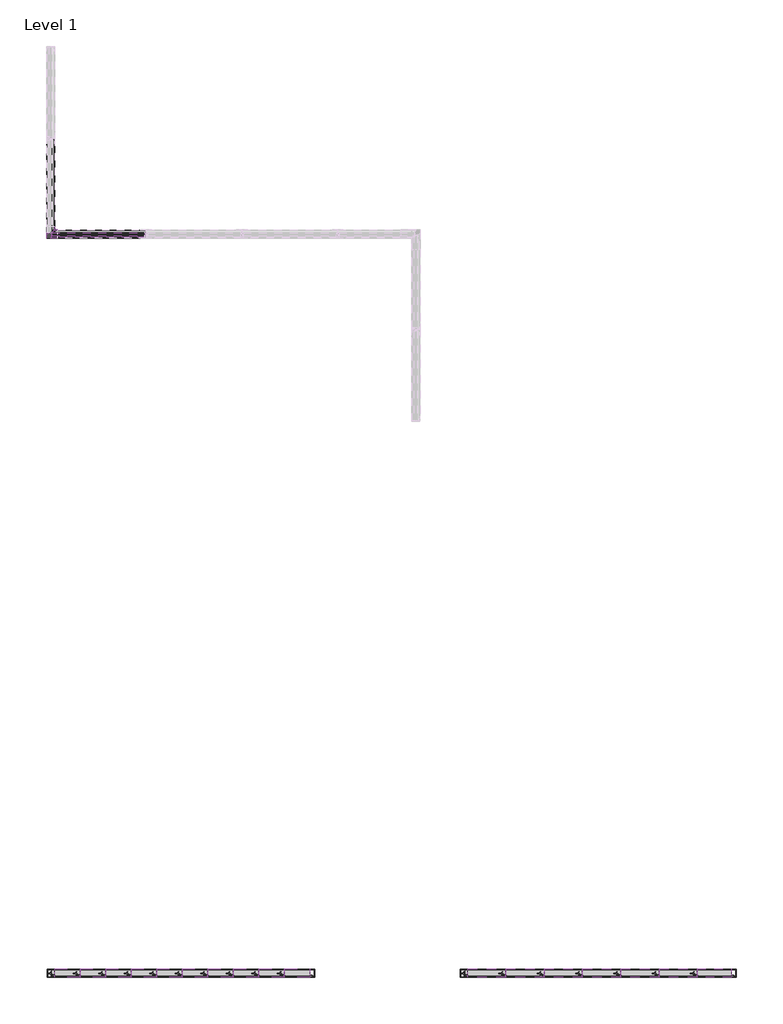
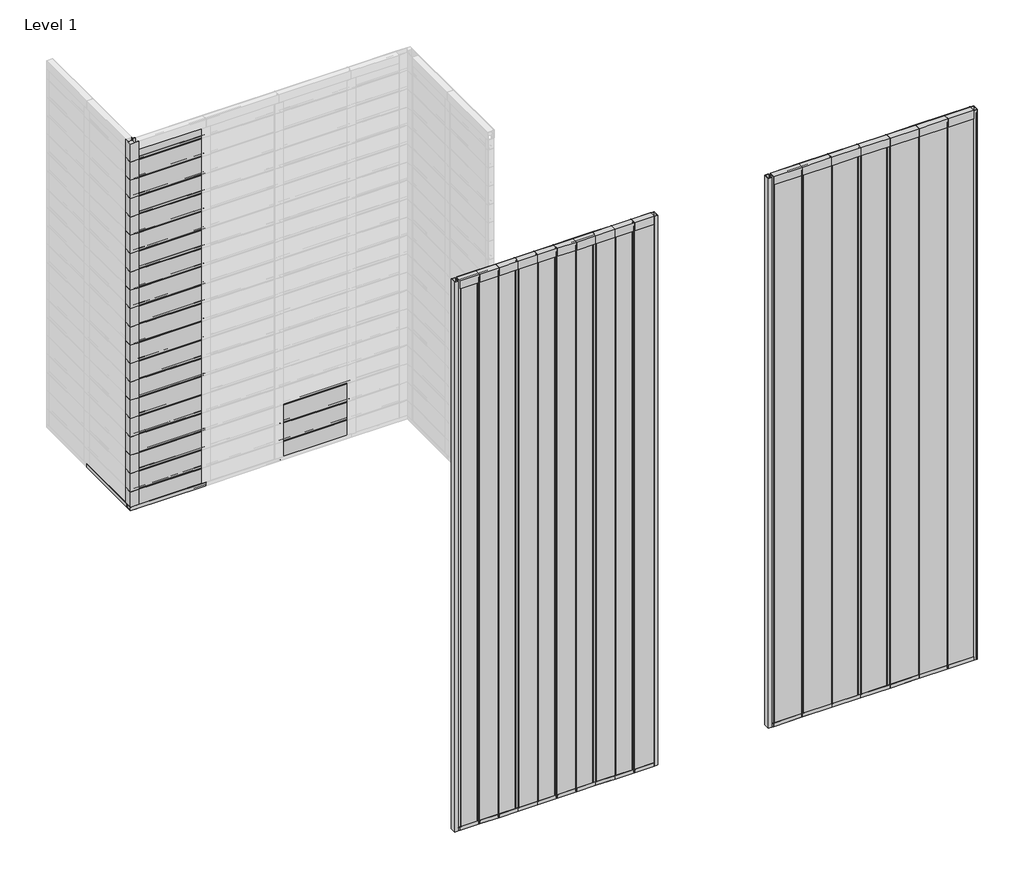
# One storey, part 1 of 6: 82 members, 40 plates.
"""IFC4 building model written with IfcOpenShell, lengths in millimetres."""

from ifc_helpers import new_model, si_unit, origin, place, context, project, spatial, transform, mapped, element, save
from components import rectangular_mullion_fastplank_2_piece_j_trim_top_ae125532, rectangular_mullion_fastplank_2_piece_j_trim_top_d668d3e7, rectangular_mullion_fastplank_2_piece_j_trim_top_9e3a3735, rectangular_mullion_fastplank_2_piece_j_trim_top_1ab4a910, rectangular_mullion_fastplank_general_j_vertical_left_2a4da334, rectangular_mullion_fastplank_outer_corner_trim_left_a135b824, rectangular_mullion_fastplank_outer_corner_trim_left_9bb45c03, rectangular_mullion_fastplank_outer_corner_trim_left_5a9d3dd4, rectangular_mullion_fastplank_outer_corner_trim_left_252256c0, rectangular_mullion_fastplank_outer_corner_trim_left_5a765686, rectangular_mullion_fastplank_outer_corner_trim_left_649a0248, rectangular_mullion_fastplank_perforated_starter_j_trim_21be3d7d, rectangular_mullion_fastplank_perforated_starter_j_trim_428297b2, rectangular_mullion_fastplank_general_j_vertical_left_750d52f3, rectangular_mullion_fastplank_perforated_starter_j_trim_7e177d29, rectangular_mullion_fastplank_general_j_vertical_left_623ef479, rectangular_mullion_fastplank_perforated_starter_j_trim_444acb71, rectangular_mullion_fastplank_perforated_starter_j_trim_7e1a0885, rectangular_mullion_fastplank_perforated_starter_j_trim_2c1f9283, plate_624bdc6f, plate_11fa783c, fastplank_v_notch_plank_vertical_124b619d, fastplank_v_notch_plank_vertical_0870f6c9, fastplank_v_notch_plank_vertical_a95fba1c, fastplank_v_notch_plank_vertical_97f11817

model = new_model("IFC4")

# Units and contexts
model_context = context("Model", 3, world=origin())
ifc_project = project(units=[si_unit("LENGTHUNIT", "METRE", prefix="MILLI")], contexts=[model_context])

# Site, building, storey
site = spatial("IfcSite", under=ifc_project)
building = spatial("IfcBuilding", under=site)
storey = spatial("IfcBuildingStorey", under=building, Name="Level 1", Elevation=0.0)

# Members
placement = place(None, origin())
rectangular_mullion_fastplank_2_piece_j_trim_top_shape = rectangular_mullion_fastplank_2_piece_j_trim_top_ae125532(model_context)
element("IfcMember", 1, ObjectType="Rectangular Mullion : FastPlank_2-Piece-J-Trim-Top", at=placement, inside=storey, context=model_context, shape_type="MappedRepresentation", body=[
    mapped(rectangular_mullion_fastplank_2_piece_j_trim_top_shape, transform((-1175.4200328, -996.4007404, 3048.0), x_axis=(0.0, 0.0, 1.0), y_axis=(0.0, 1.0, 0.0), z_axis=(-1.0, 0.0, 0.0))),
])
element("IfcMember", 2, ObjectType="Rectangular Mullion : FastPlank_2-Piece-J-Trim-Top", at=placement, inside=storey, context=model_context, shape_type="MappedRepresentation", body=[
    mapped(rectangular_mullion_fastplank_2_piece_j_trim_top_shape, transform((-1277.0200328, -996.4007404, 3048.0), x_axis=(0.0, 0.0, 1.0), y_axis=(0.0, 1.0, 0.0), z_axis=(-1.0, 0.0, 0.0))),
])
element("IfcMember", 3, ObjectType="Rectangular Mullion : FastPlank_2-Piece-J-Trim-Top", at=placement, inside=storey, context=model_context, shape_type="MappedRepresentation", body=[
    mapped(rectangular_mullion_fastplank_2_piece_j_trim_top_shape, transform((-1378.6200328, -996.4007404, 3048.0), x_axis=(0.0, 0.0, 1.0), y_axis=(0.0, 1.0, 0.0), z_axis=(-1.0, 0.0, 0.0))),
])
element("IfcMember", 4, ObjectType="Rectangular Mullion : FastPlank_2-Piece-J-Trim-Top", at=placement, inside=storey, context=model_context, shape_type="MappedRepresentation", body=[
    mapped(rectangular_mullion_fastplank_2_piece_j_trim_top_shape, transform((-1480.2200328, -996.4007404, 3048.0), x_axis=(0.0, 0.0, 1.0), y_axis=(0.0, 1.0, 0.0), z_axis=(-1.0, 0.0, 0.0))),
])
element("IfcMember", 5, ObjectType="Rectangular Mullion : FastPlank_2-Piece-J-Trim-Top", at=placement, inside=storey, context=model_context, shape_type="MappedRepresentation", body=[
    mapped(rectangular_mullion_fastplank_2_piece_j_trim_top_shape, transform((-1581.8200328, -996.4007404, 3048.0), x_axis=(0.0, 0.0, 1.0), y_axis=(0.0, 1.0, 0.0), z_axis=(-1.0, 0.0, 0.0))),
])
element("IfcMember", 6, ObjectType="Rectangular Mullion : FastPlank_2-Piece-J-Trim-Top", at=placement, inside=storey, context=model_context, shape_type="MappedRepresentation", body=[
    mapped(rectangular_mullion_fastplank_2_piece_j_trim_top_shape, transform((-1683.4200328, -996.4007404, 3048.0), x_axis=(0.0, 0.0, 1.0), y_axis=(0.0, 1.0, 0.0), z_axis=(-1.0, 0.0, 0.0))),
])
element("IfcMember", 7, ObjectType="Rectangular Mullion : FastPlank_2-Piece-J-Trim-Top", at=placement, inside=storey, context=model_context, shape_type="MappedRepresentation", body=[
    mapped(rectangular_mullion_fastplank_2_piece_j_trim_top_shape, transform((-1785.0200328, -996.4007404, 3048.0), x_axis=(0.0, 0.0, 1.0), y_axis=(0.0, 1.0, 0.0), z_axis=(-1.0, 0.0, 0.0))),
])
element("IfcMember", 8, ObjectType="Rectangular Mullion : FastPlank_2-Piece-J-Trim-Top", at=placement, inside=storey, context=model_context, shape_type="MappedRepresentation", body=[
    mapped(rectangular_mullion_fastplank_2_piece_j_trim_top_shape, transform((-1886.6200328, -996.4007404, 3048.0), x_axis=(0.0, 0.0, 1.0), y_axis=(0.0, 1.0, 0.0), z_axis=(-1.0, 0.0, 0.0))),
])
element("IfcMember", 9, ObjectType="Rectangular Mullion : FastPlank_2-Piece-J-Trim-Top", at=placement, inside=storey, context=model_context, shape_type="MappedRepresentation", body=[
    mapped(rectangular_mullion_fastplank_2_piece_j_trim_top_shape, transform((-1988.2200328, -996.4007404, 3048.0), x_axis=(0.0, 0.0, 1.0), y_axis=(0.0, 1.0, 0.0), z_axis=(-1.0, 0.0, 0.0))),
])
rectangular_mullion_fastplank_2_piece_j_trim_top_2_shape = rectangular_mullion_fastplank_2_piece_j_trim_top_d668d3e7(model_context)
element("IfcMember", 10, ObjectType="Rectangular Mullion : FastPlank_2-Piece-J-Trim-Top", at=placement, inside=storey, context=model_context, shape_type="MappedRepresentation", body=[
    mapped(rectangular_mullion_fastplank_2_piece_j_trim_top_2_shape, transform((-1073.8200328, -996.4007404, 3048.0), x_axis=(0.0, 0.0, 1.0), y_axis=(0.0, 1.0, 0.0), z_axis=(-1.0, 0.0, 0.0))),
])
rectangular_mullion_fastplank_2_piece_j_trim_top_3_shape = rectangular_mullion_fastplank_2_piece_j_trim_top_9e3a3735(model_context)
element("IfcMember", 11, ObjectType="Rectangular Mullion : FastPlank_2-Piece-J-Trim-Top", at=placement, inside=storey, context=model_context, shape_type="MappedRepresentation", body=[
    mapped(rectangular_mullion_fastplank_2_piece_j_trim_top_3_shape, transform((417.1299483, -996.4007404, 3048.0), x_axis=(0.0, 0.0, 1.0), y_axis=(0.0, 1.0, 0.0), z_axis=(-1.0, 0.0, 0.0))),
])
element("IfcMember", 12, ObjectType="Rectangular Mullion : FastPlank_2-Piece-J-Trim-Top", at=placement, inside=storey, context=model_context, shape_type="MappedRepresentation", body=[
    mapped(rectangular_mullion_fastplank_2_piece_j_trim_top_3_shape, transform((264.7299483, -996.4007404, 3048.0), x_axis=(0.0, 0.0, 1.0), y_axis=(0.0, 1.0, 0.0), z_axis=(-1.0, 0.0, 0.0))),
])
element("IfcMember", 13, ObjectType="Rectangular Mullion : FastPlank_2-Piece-J-Trim-Top", at=placement, inside=storey, context=model_context, shape_type="MappedRepresentation", body=[
    mapped(rectangular_mullion_fastplank_2_piece_j_trim_top_3_shape, transform((112.3299483, -996.4007404, 3048.0), x_axis=(0.0, 0.0, 1.0), y_axis=(0.0, 1.0, 0.0), z_axis=(-1.0, 0.0, 0.0))),
])
element("IfcMember", 14, ObjectType="Rectangular Mullion : FastPlank_2-Piece-J-Trim-Top", at=placement, inside=storey, context=model_context, shape_type="MappedRepresentation", body=[
    mapped(rectangular_mullion_fastplank_2_piece_j_trim_top_3_shape, transform((-40.0700517, -996.4007404, 3048.0), x_axis=(0.0, 0.0, 1.0), y_axis=(0.0, 1.0, 0.0), z_axis=(-1.0, 0.0, 0.0))),
])
element("IfcMember", 15, ObjectType="Rectangular Mullion : FastPlank_2-Piece-J-Trim-Top", at=placement, inside=storey, context=model_context, shape_type="MappedRepresentation", body=[
    mapped(rectangular_mullion_fastplank_2_piece_j_trim_top_3_shape, transform((-192.4700517, -996.4007404, 3048.0), x_axis=(0.0, 0.0, 1.0), y_axis=(0.0, 1.0, 0.0), z_axis=(-1.0, 0.0, 0.0))),
])
rectangular_mullion_fastplank_2_piece_j_trim_top_4_shape = rectangular_mullion_fastplank_2_piece_j_trim_top_1ab4a910(model_context)
element("IfcMember", 16, ObjectType="Rectangular Mullion : FastPlank_2-Piece-J-Trim-Top", at=placement, inside=storey, context=model_context, shape_type="MappedRepresentation", body=[
    mapped(rectangular_mullion_fastplank_2_piece_j_trim_top_4_shape, transform((569.5299483, -996.4007404, 3048.0), x_axis=(0.0, 0.0, 1.0), y_axis=(0.0, 1.0, 0.0), z_axis=(-1.0, 0.0, 0.0))),
])
element("IfcMember", 17, ObjectType="Rectangular Mullion : FastPlank_2-Piece-J-Trim-Top", at=placement, inside=storey, context=model_context, shape_type="MappedRepresentation", body=[
    mapped(rectangular_mullion_fastplank_2_piece_j_trim_top_3_shape, transform((-344.8700517, -996.4007404, 3048.0), x_axis=(0.0, 0.0, 1.0), y_axis=(0.0, 1.0, 0.0), z_axis=(-1.0, 0.0, 0.0))),
])
rectangular_mullion_fastplank_general_j_vertical_left_shape = rectangular_mullion_fastplank_general_j_vertical_left_2a4da334(model_context)
element("IfcMember", 18, ObjectType="Rectangular Mullion : FastPlank_General-J-Vertical-Left", at=placement, inside=storey, context=model_context, shape_type="MappedRepresentation", body=[
    mapped(rectangular_mullion_fastplank_general_j_vertical_left_shape, transform((-2017.3382092, -996.4007404, 0.0), x_axis=(-1.0, 0.0, 0.0), y_axis=(0.0, 1.0, 0.0), z_axis=(0.0, 0.0, -1.0))),
])
element("IfcMember", 19, ObjectType="Rectangular Mullion : FastPlank_General-J-Vertical-Left", at=placement, inside=storey, context=model_context, shape_type="MappedRepresentation", body=[
    mapped(rectangular_mullion_fastplank_general_j_vertical_left_shape, transform((-373.7556235, -996.4007404, 0.0), x_axis=(-1.0, 0.0, 0.0), y_axis=(0.0, 1.0, 0.0), z_axis=(0.0, 0.0, -1.0))),
])
element("IfcMember", 20, ObjectType="Rectangular Mullion : FastPlank_General-J-Vertical-Right", at=placement, inside=storey, context=model_context, shape_type="MappedRepresentation", body=[
    mapped(rectangular_mullion_fastplank_general_j_vertical_left_shape, transform((-953.1700325, -996.4007404, 3048.0), x_axis=(1.0, 0.0, 0.0), y_axis=(0.0, 1.0, 0.0), z_axis=(0.0, 0.0, 1.0))),
])
element("IfcMember", 21, ObjectType="Rectangular Mullion : FastPlank_General-J-Vertical-Right", at=placement, inside=storey, context=model_context, shape_type="MappedRepresentation", body=[
    mapped(rectangular_mullion_fastplank_general_j_vertical_left_shape, transform((723.2299675, -996.4007404, 3048.0), x_axis=(1.0, 0.0, 0.0), y_axis=(0.0, 1.0, 0.0), z_axis=(0.0, 0.0, 1.0))),
])
rectangular_mullion_fastplank_outer_corner_trim_left_shape = rectangular_mullion_fastplank_outer_corner_trim_left_a135b824(model_context)
element("IfcMember", 22, ObjectType="Rectangular Mullion : FastPlank_Outer-Corner-Trim-Left", at=placement, inside=storey, context=model_context, shape_type="MappedRepresentation", body=[
    mapped(rectangular_mullion_fastplank_outer_corner_trim_left_shape, transform((-2019.9700325, 1944.9134647, 204.5000189), x_axis=(-1.0, 0.0, 0.0), y_axis=(0.0, -1.0, 0.0), z_axis=(0.0, 0.0, 1.0))),
])
element("IfcMember", 23, ObjectType="Rectangular Mullion : FastPlank_Outer-Corner-Trim-Left", at=placement, inside=storey, context=model_context, shape_type="MappedRepresentation", body=[
    mapped(rectangular_mullion_fastplank_outer_corner_trim_left_shape, transform((-2019.9700325, 1944.9134647, 306.1000189), x_axis=(-1.0, 0.0, 0.0), y_axis=(0.0, -1.0, 0.0), z_axis=(0.0, 0.0, 1.0))),
])
element("IfcMember", 24, ObjectType="Rectangular Mullion : FastPlank_Outer-Corner-Trim-Left", at=placement, inside=storey, context=model_context, shape_type="MappedRepresentation", body=[
    mapped(rectangular_mullion_fastplank_outer_corner_trim_left_shape, transform((-2019.9700325, 1944.9134647, 407.7000189), x_axis=(-1.0, 0.0, 0.0), y_axis=(0.0, -1.0, 0.0), z_axis=(0.0, 0.0, 1.0))),
])
element("IfcMember", 25, ObjectType="Rectangular Mullion : FastPlank_Outer-Corner-Trim-Left", at=placement, inside=storey, context=model_context, shape_type="MappedRepresentation", body=[
    mapped(rectangular_mullion_fastplank_outer_corner_trim_left_shape, transform((-2019.9700325, 1944.9134647, 509.3000189), x_axis=(-1.0, 0.0, 0.0), y_axis=(0.0, -1.0, 0.0), z_axis=(0.0, 0.0, 1.0))),
])
element("IfcMember", 26, ObjectType="Rectangular Mullion : FastPlank_Outer-Corner-Trim-Left", at=placement, inside=storey, context=model_context, shape_type="MappedRepresentation", body=[
    mapped(rectangular_mullion_fastplank_outer_corner_trim_left_shape, transform((-2019.9700325, 1944.9134647, 610.9000189), x_axis=(-1.0, 0.0, 0.0), y_axis=(0.0, -1.0, 0.0), z_axis=(0.0, 0.0, 1.0))),
])
element("IfcMember", 27, ObjectType="Rectangular Mullion : FastPlank_Outer-Corner-Trim-Left", at=placement, inside=storey, context=model_context, shape_type="MappedRepresentation", body=[
    mapped(rectangular_mullion_fastplank_outer_corner_trim_left_shape, transform((-2019.9700325, 1944.9134647, 712.5000189), x_axis=(-1.0, 0.0, 0.0), y_axis=(0.0, -1.0, 0.0), z_axis=(0.0, 0.0, 1.0))),
])
element("IfcMember", 28, ObjectType="Rectangular Mullion : FastPlank_Outer-Corner-Trim-Left", at=placement, inside=storey, context=model_context, shape_type="MappedRepresentation", body=[
    mapped(rectangular_mullion_fastplank_outer_corner_trim_left_shape, transform((-2019.9700325, 1944.9134647, 814.1000189), x_axis=(-1.0, 0.0, 0.0), y_axis=(0.0, -1.0, 0.0), z_axis=(0.0, 0.0, 1.0))),
])
element("IfcMember", 29, ObjectType="Rectangular Mullion : FastPlank_Outer-Corner-Trim-Left", at=placement, inside=storey, context=model_context, shape_type="MappedRepresentation", body=[
    mapped(rectangular_mullion_fastplank_outer_corner_trim_left_shape, transform((-2019.9700325, 1944.9134647, 915.7000189), x_axis=(-1.0, 0.0, 0.0), y_axis=(0.0, -1.0, 0.0), z_axis=(0.0, 0.0, 1.0))),
])
element("IfcMember", 30, ObjectType="Rectangular Mullion : FastPlank_Outer-Corner-Trim-Left", at=placement, inside=storey, context=model_context, shape_type="MappedRepresentation", body=[
    mapped(rectangular_mullion_fastplank_outer_corner_trim_left_shape, transform((-2019.9700325, 1944.9134647, 1017.3000189), x_axis=(-1.0, 0.0, 0.0), y_axis=(0.0, -1.0, 0.0), z_axis=(0.0, 0.0, 1.0))),
])
element("IfcMember", 31, ObjectType="Rectangular Mullion : FastPlank_Outer-Corner-Trim-Left", at=placement, inside=storey, context=model_context, shape_type="MappedRepresentation", body=[
    mapped(rectangular_mullion_fastplank_outer_corner_trim_left_shape, transform((-2019.9700325, 1944.9134647, 1118.9000189), x_axis=(-1.0, 0.0, 0.0), y_axis=(0.0, -1.0, 0.0), z_axis=(0.0, 0.0, 1.0))),
])
element("IfcMember", 32, ObjectType="Rectangular Mullion : FastPlank_Outer-Corner-Trim-Left", at=placement, inside=storey, context=model_context, shape_type="MappedRepresentation", body=[
    mapped(rectangular_mullion_fastplank_outer_corner_trim_left_shape, transform((-2019.9700325, 1944.9134647, 1220.5000189), x_axis=(-1.0, 0.0, 0.0), y_axis=(0.0, -1.0, 0.0), z_axis=(0.0, 0.0, 1.0))),
])
element("IfcMember", 33, ObjectType="Rectangular Mullion : FastPlank_Outer-Corner-Trim-Left", at=placement, inside=storey, context=model_context, shape_type="MappedRepresentation", body=[
    mapped(rectangular_mullion_fastplank_outer_corner_trim_left_shape, transform((-2019.9700325, 1944.9134647, 1322.1000189), x_axis=(-1.0, 0.0, 0.0), y_axis=(0.0, -1.0, 0.0), z_axis=(0.0, 0.0, 1.0))),
])
element("IfcMember", 34, ObjectType="Rectangular Mullion : FastPlank_Outer-Corner-Trim-Left", at=placement, inside=storey, context=model_context, shape_type="MappedRepresentation", body=[
    mapped(rectangular_mullion_fastplank_outer_corner_trim_left_shape, transform((-2019.9700325, 1944.9134647, 1423.7000189), x_axis=(-1.0, 0.0, 0.0), y_axis=(0.0, -1.0, 0.0), z_axis=(0.0, 0.0, 1.0))),
])
element("IfcMember", 35, ObjectType="Rectangular Mullion : FastPlank_Outer-Corner-Trim-Left", at=placement, inside=storey, context=model_context, shape_type="MappedRepresentation", body=[
    mapped(rectangular_mullion_fastplank_outer_corner_trim_left_shape, transform((-2019.9700325, 1944.9134647, 1525.3000189), x_axis=(-1.0, 0.0, 0.0), y_axis=(0.0, -1.0, 0.0), z_axis=(0.0, 0.0, 1.0))),
])
element("IfcMember", 36, ObjectType="Rectangular Mullion : FastPlank_Outer-Corner-Trim-Left", at=placement, inside=storey, context=model_context, shape_type="MappedRepresentation", body=[
    mapped(rectangular_mullion_fastplank_outer_corner_trim_left_shape, transform((-2019.9700325, 1944.9134647, 1626.9000189), x_axis=(-1.0, 0.0, 0.0), y_axis=(0.0, -1.0, 0.0), z_axis=(0.0, 0.0, 1.0))),
])
element("IfcMember", 37, ObjectType="Rectangular Mullion : FastPlank_Outer-Corner-Trim-Left", at=placement, inside=storey, context=model_context, shape_type="MappedRepresentation", body=[
    mapped(rectangular_mullion_fastplank_outer_corner_trim_left_shape, transform((-2019.9700325, 1944.9134647, 1728.5000189), x_axis=(-1.0, 0.0, 0.0), y_axis=(0.0, -1.0, 0.0), z_axis=(0.0, 0.0, 1.0))),
])
element("IfcMember", 38, ObjectType="Rectangular Mullion : FastPlank_Outer-Corner-Trim-Left", at=placement, inside=storey, context=model_context, shape_type="MappedRepresentation", body=[
    mapped(rectangular_mullion_fastplank_outer_corner_trim_left_shape, transform((-2019.9700325, 1944.9134647, 1830.1000189), x_axis=(-1.0, 0.0, 0.0), y_axis=(0.0, -1.0, 0.0), z_axis=(0.0, 0.0, 1.0))),
])
element("IfcMember", 39, ObjectType="Rectangular Mullion : FastPlank_Outer-Corner-Trim-Left", at=placement, inside=storey, context=model_context, shape_type="MappedRepresentation", body=[
    mapped(rectangular_mullion_fastplank_outer_corner_trim_left_shape, transform((-2019.9700325, 1944.9134647, 1931.7000189), x_axis=(-1.0, 0.0, 0.0), y_axis=(0.0, -1.0, 0.0), z_axis=(0.0, 0.0, 1.0))),
])
rectangular_mullion_fastplank_outer_corner_trim_left_2_shape = rectangular_mullion_fastplank_outer_corner_trim_left_9bb45c03(model_context)
element("IfcMember", 40, ObjectType="Rectangular Mullion : FastPlank_Outer-Corner-Trim-Left", at=placement, inside=storey, context=model_context, shape_type="MappedRepresentation", body=[
    mapped(rectangular_mullion_fastplank_outer_corner_trim_left_2_shape, transform((-1998.3218907, 1923.265323, 204.5000189), x_axis=(0.0, -1.0, 0.0), y_axis=(1.0, 0.0, 0.0), z_axis=(0.0, 0.0, 1.0))),
])
element("IfcMember", 41, ObjectType="Rectangular Mullion : FastPlank_Outer-Corner-Trim-Left", at=placement, inside=storey, context=model_context, shape_type="MappedRepresentation", body=[
    mapped(rectangular_mullion_fastplank_outer_corner_trim_left_2_shape, transform((-1998.3218907, 1923.265323, 306.1000189), x_axis=(0.0, -1.0, 0.0), y_axis=(1.0, 0.0, 0.0), z_axis=(0.0, 0.0, 1.0))),
])
element("IfcMember", 42, ObjectType="Rectangular Mullion : FastPlank_Outer-Corner-Trim-Left", at=placement, inside=storey, context=model_context, shape_type="MappedRepresentation", body=[
    mapped(rectangular_mullion_fastplank_outer_corner_trim_left_2_shape, transform((-1998.3218907, 1923.265323, 407.7000189), x_axis=(0.0, -1.0, 0.0), y_axis=(1.0, 0.0, 0.0), z_axis=(0.0, 0.0, 1.0))),
])
element("IfcMember", 43, ObjectType="Rectangular Mullion : FastPlank_Outer-Corner-Trim-Left", at=placement, inside=storey, context=model_context, shape_type="MappedRepresentation", body=[
    mapped(rectangular_mullion_fastplank_outer_corner_trim_left_2_shape, transform((-1998.3218907, 1923.265323, 509.3000189), x_axis=(0.0, -1.0, 0.0), y_axis=(1.0, 0.0, 0.0), z_axis=(0.0, 0.0, 1.0))),
])
element("IfcMember", 44, ObjectType="Rectangular Mullion : FastPlank_Outer-Corner-Trim-Left", at=placement, inside=storey, context=model_context, shape_type="MappedRepresentation", body=[
    mapped(rectangular_mullion_fastplank_outer_corner_trim_left_2_shape, transform((-1998.3218907, 1923.265323, 610.9000189), x_axis=(0.0, -1.0, 0.0), y_axis=(1.0, 0.0, 0.0), z_axis=(0.0, 0.0, 1.0))),
])
element("IfcMember", 45, ObjectType="Rectangular Mullion : FastPlank_Outer-Corner-Trim-Left", at=placement, inside=storey, context=model_context, shape_type="MappedRepresentation", body=[
    mapped(rectangular_mullion_fastplank_outer_corner_trim_left_2_shape, transform((-1998.3218907, 1923.265323, 712.5000189), x_axis=(0.0, -1.0, 0.0), y_axis=(1.0, 0.0, 0.0), z_axis=(0.0, 0.0, 1.0))),
])
element("IfcMember", 46, ObjectType="Rectangular Mullion : FastPlank_Outer-Corner-Trim-Left", at=placement, inside=storey, context=model_context, shape_type="MappedRepresentation", body=[
    mapped(rectangular_mullion_fastplank_outer_corner_trim_left_2_shape, transform((-1998.3218907, 1923.265323, 814.1000189), x_axis=(0.0, -1.0, 0.0), y_axis=(1.0, 0.0, 0.0), z_axis=(0.0, 0.0, 1.0))),
])
element("IfcMember", 47, ObjectType="Rectangular Mullion : FastPlank_Outer-Corner-Trim-Left", at=placement, inside=storey, context=model_context, shape_type="MappedRepresentation", body=[
    mapped(rectangular_mullion_fastplank_outer_corner_trim_left_2_shape, transform((-1998.3218907, 1923.265323, 915.7000189), x_axis=(0.0, -1.0, 0.0), y_axis=(1.0, 0.0, 0.0), z_axis=(0.0, 0.0, 1.0))),
])
element("IfcMember", 48, ObjectType="Rectangular Mullion : FastPlank_Outer-Corner-Trim-Left", at=placement, inside=storey, context=model_context, shape_type="MappedRepresentation", body=[
    mapped(rectangular_mullion_fastplank_outer_corner_trim_left_2_shape, transform((-1998.3218907, 1923.265323, 1017.3000189), x_axis=(0.0, -1.0, 0.0), y_axis=(1.0, 0.0, 0.0), z_axis=(0.0, 0.0, 1.0))),
])
element("IfcMember", 49, ObjectType="Rectangular Mullion : FastPlank_Outer-Corner-Trim-Left", at=placement, inside=storey, context=model_context, shape_type="MappedRepresentation", body=[
    mapped(rectangular_mullion_fastplank_outer_corner_trim_left_2_shape, transform((-1998.3218907, 1923.265323, 1118.9000189), x_axis=(0.0, -1.0, 0.0), y_axis=(1.0, 0.0, 0.0), z_axis=(0.0, 0.0, 1.0))),
])
element("IfcMember", 50, ObjectType="Rectangular Mullion : FastPlank_Outer-Corner-Trim-Left", at=placement, inside=storey, context=model_context, shape_type="MappedRepresentation", body=[
    mapped(rectangular_mullion_fastplank_outer_corner_trim_left_2_shape, transform((-1998.3218907, 1923.265323, 1220.5000189), x_axis=(0.0, -1.0, 0.0), y_axis=(1.0, 0.0, 0.0), z_axis=(0.0, 0.0, 1.0))),
])
element("IfcMember", 51, ObjectType="Rectangular Mullion : FastPlank_Outer-Corner-Trim-Left", at=placement, inside=storey, context=model_context, shape_type="MappedRepresentation", body=[
    mapped(rectangular_mullion_fastplank_outer_corner_trim_left_2_shape, transform((-1998.3218907, 1923.265323, 1322.1000189), x_axis=(0.0, -1.0, 0.0), y_axis=(1.0, 0.0, 0.0), z_axis=(0.0, 0.0, 1.0))),
])
element("IfcMember", 52, ObjectType="Rectangular Mullion : FastPlank_Outer-Corner-Trim-Left", at=placement, inside=storey, context=model_context, shape_type="MappedRepresentation", body=[
    mapped(rectangular_mullion_fastplank_outer_corner_trim_left_2_shape, transform((-1998.3218907, 1923.265323, 1423.7000189), x_axis=(0.0, -1.0, 0.0), y_axis=(1.0, 0.0, 0.0), z_axis=(0.0, 0.0, 1.0))),
])
element("IfcMember", 53, ObjectType="Rectangular Mullion : FastPlank_Outer-Corner-Trim-Left", at=placement, inside=storey, context=model_context, shape_type="MappedRepresentation", body=[
    mapped(rectangular_mullion_fastplank_outer_corner_trim_left_2_shape, transform((-1998.3218907, 1923.265323, 1525.3000189), x_axis=(0.0, -1.0, 0.0), y_axis=(1.0, 0.0, 0.0), z_axis=(0.0, 0.0, 1.0))),
])
element("IfcMember", 54, ObjectType="Rectangular Mullion : FastPlank_Outer-Corner-Trim-Left", at=placement, inside=storey, context=model_context, shape_type="MappedRepresentation", body=[
    mapped(rectangular_mullion_fastplank_outer_corner_trim_left_2_shape, transform((-1998.3218907, 1923.265323, 1626.9000189), x_axis=(0.0, -1.0, 0.0), y_axis=(1.0, 0.0, 0.0), z_axis=(0.0, 0.0, 1.0))),
])
element("IfcMember", 55, ObjectType="Rectangular Mullion : FastPlank_Outer-Corner-Trim-Left", at=placement, inside=storey, context=model_context, shape_type="MappedRepresentation", body=[
    mapped(rectangular_mullion_fastplank_outer_corner_trim_left_2_shape, transform((-1998.3218907, 1923.265323, 1728.5000189), x_axis=(0.0, -1.0, 0.0), y_axis=(1.0, 0.0, 0.0), z_axis=(0.0, 0.0, 1.0))),
])
element("IfcMember", 56, ObjectType="Rectangular Mullion : FastPlank_Outer-Corner-Trim-Left", at=placement, inside=storey, context=model_context, shape_type="MappedRepresentation", body=[
    mapped(rectangular_mullion_fastplank_outer_corner_trim_left_2_shape, transform((-1998.3218907, 1923.265323, 1830.1000189), x_axis=(0.0, -1.0, 0.0), y_axis=(1.0, 0.0, 0.0), z_axis=(0.0, 0.0, 1.0))),
])
element("IfcMember", 57, ObjectType="Rectangular Mullion : FastPlank_Outer-Corner-Trim-Left", at=placement, inside=storey, context=model_context, shape_type="MappedRepresentation", body=[
    mapped(rectangular_mullion_fastplank_outer_corner_trim_left_2_shape, transform((-1998.3218907, 1923.265323, 1931.7000189), x_axis=(0.0, -1.0, 0.0), y_axis=(1.0, 0.0, 0.0), z_axis=(0.0, 0.0, 1.0))),
])
rectangular_mullion_fastplank_outer_corner_trim_left_3_shape = rectangular_mullion_fastplank_outer_corner_trim_left_5a9d3dd4(model_context)
element("IfcMember", 58, ObjectType="Rectangular Mullion : FastPlank_Outer-Corner-Trim-Left", at=placement, inside=storey, context=model_context, shape_type="MappedRepresentation", body=[
    mapped(rectangular_mullion_fastplank_outer_corner_trim_left_3_shape, transform((-1998.3218907, 1923.265323, 2032.0), x_axis=(0.0, -1.0, 0.0), y_axis=(1.0, 0.0, 0.0), z_axis=(0.0, 0.0, 1.0))),
])
rectangular_mullion_fastplank_outer_corner_trim_left_4_shape = rectangular_mullion_fastplank_outer_corner_trim_left_252256c0(model_context)
element("IfcMember", 59, ObjectType="Rectangular Mullion : FastPlank_Outer-Corner-Trim-Left", at=placement, inside=storey, context=model_context, shape_type="MappedRepresentation", body=[
    mapped(rectangular_mullion_fastplank_outer_corner_trim_left_4_shape, transform((-2019.9700325, 1944.9134647, 2032.0), x_axis=(-1.0, 0.0, 0.0), y_axis=(0.0, -1.0, 0.0), z_axis=(0.0, 0.0, 1.0))),
])
rectangular_mullion_fastplank_outer_corner_trim_left_5_shape = rectangular_mullion_fastplank_outer_corner_trim_left_5a765686(model_context)
element("IfcMember", 60, ObjectType="Rectangular Mullion : FastPlank_Outer-Corner-Trim-Left", at=placement, inside=storey, context=model_context, shape_type="MappedRepresentation", body=[
    mapped(rectangular_mullion_fastplank_outer_corner_trim_left_5_shape, transform((-2019.9700325, 1944.9134647, 102.9000189), x_axis=(-1.0, 0.0, 0.0), y_axis=(0.0, -1.0, 0.0), z_axis=(0.0, 0.0, 1.0))),
])
rectangular_mullion_fastplank_outer_corner_trim_left_6_shape = rectangular_mullion_fastplank_outer_corner_trim_left_649a0248(model_context)
element("IfcMember", 61, ObjectType="Rectangular Mullion : FastPlank_Outer-Corner-Trim-Left", at=placement, inside=storey, context=model_context, shape_type="MappedRepresentation", body=[
    mapped(rectangular_mullion_fastplank_outer_corner_trim_left_6_shape, transform((-1998.3218907, 1923.265323, 102.9000189), x_axis=(0.0, -1.0, 0.0), y_axis=(1.0, 0.0, 0.0), z_axis=(0.0, 0.0, 1.0))),
])
rectangular_mullion_fastplank_perforated_starter_j_trim_shape = rectangular_mullion_fastplank_perforated_starter_j_trim_21be3d7d(model_context)
element("IfcMember", 62, ObjectType="Rectangular Mullion : FastPlank_Perforated-Starter-J-Trim", at=placement, inside=storey, context=model_context, shape_type="MappedRepresentation", body=[
    mapped(rectangular_mullion_fastplank_perforated_starter_j_trim_shape, transform((-2019.9700325, 1944.9134647, 0.0), x_axis=(0.0, 0.0, -1.0), y_axis=(0.0, -1.0, 0.0), z_axis=(-1.0, 0.0, 0.0))),
])
rectangular_mullion_fastplank_perforated_starter_j_trim_2_shape = rectangular_mullion_fastplank_perforated_starter_j_trim_428297b2(model_context)
element("IfcMember", 63, ObjectType="Rectangular Mullion : FastPlank_Perforated-Starter-J-Trim", at=placement, inside=storey, context=model_context, shape_type="MappedRepresentation", body=[
    mapped(rectangular_mullion_fastplank_perforated_starter_j_trim_2_shape, transform((-1998.3218907, 1923.265323, 0.0), x_axis=(0.0, 0.0, -1.0), y_axis=(1.0, 0.0, 0.0), z_axis=(0.0, -1.0, 0.0))),
])
rectangular_mullion_fastplank_general_j_vertical_left_2_shape = rectangular_mullion_fastplank_general_j_vertical_left_750d52f3(model_context)
element("IfcMember", 64, ObjectType="Rectangular Mullion : FastPlank_Perforated-Starter-J-Trim", at=placement, inside=storey, context=model_context, shape_type="MappedRepresentation", body=[
    mapped(rectangular_mullion_fastplank_general_j_vertical_left_2_shape, transform((-1073.8200328, -996.4007404, 0.0), x_axis=(0.0, 0.0, -1.0), y_axis=(0.0, 1.0, 0.0), z_axis=(1.0, 0.0, 0.0))),
])
element("IfcMember", 65, ObjectType="Rectangular Mullion : FastPlank_Perforated-Starter-J-Trim", at=placement, inside=storey, context=model_context, shape_type="MappedRepresentation", body=[
    mapped(rectangular_mullion_fastplank_general_j_vertical_left_2_shape, transform((-1175.4200328, -996.4007404, 0.0), x_axis=(0.0, 0.0, -1.0), y_axis=(0.0, 1.0, 0.0), z_axis=(1.0, 0.0, 0.0))),
])
element("IfcMember", 66, ObjectType="Rectangular Mullion : FastPlank_Perforated-Starter-J-Trim", at=placement, inside=storey, context=model_context, shape_type="MappedRepresentation", body=[
    mapped(rectangular_mullion_fastplank_general_j_vertical_left_2_shape, transform((-1277.0200328, -996.4007404, 0.0), x_axis=(0.0, 0.0, -1.0), y_axis=(0.0, 1.0, 0.0), z_axis=(1.0, 0.0, 0.0))),
])
element("IfcMember", 67, ObjectType="Rectangular Mullion : FastPlank_Perforated-Starter-J-Trim", at=placement, inside=storey, context=model_context, shape_type="MappedRepresentation", body=[
    mapped(rectangular_mullion_fastplank_general_j_vertical_left_2_shape, transform((-1378.6200328, -996.4007404, 0.0), x_axis=(0.0, 0.0, -1.0), y_axis=(0.0, 1.0, 0.0), z_axis=(1.0, 0.0, 0.0))),
])
element("IfcMember", 68, ObjectType="Rectangular Mullion : FastPlank_Perforated-Starter-J-Trim", at=placement, inside=storey, context=model_context, shape_type="MappedRepresentation", body=[
    mapped(rectangular_mullion_fastplank_general_j_vertical_left_2_shape, transform((-1480.2200328, -996.4007404, 0.0), x_axis=(0.0, 0.0, -1.0), y_axis=(0.0, 1.0, 0.0), z_axis=(1.0, 0.0, 0.0))),
])
element("IfcMember", 69, ObjectType="Rectangular Mullion : FastPlank_Perforated-Starter-J-Trim", at=placement, inside=storey, context=model_context, shape_type="MappedRepresentation", body=[
    mapped(rectangular_mullion_fastplank_general_j_vertical_left_2_shape, transform((-1581.8200328, -996.4007404, 0.0), x_axis=(0.0, 0.0, -1.0), y_axis=(0.0, 1.0, 0.0), z_axis=(1.0, 0.0, 0.0))),
])
element("IfcMember", 70, ObjectType="Rectangular Mullion : FastPlank_Perforated-Starter-J-Trim", at=placement, inside=storey, context=model_context, shape_type="MappedRepresentation", body=[
    mapped(rectangular_mullion_fastplank_general_j_vertical_left_2_shape, transform((-1683.4200328, -996.4007404, 0.0), x_axis=(0.0, 0.0, -1.0), y_axis=(0.0, 1.0, 0.0), z_axis=(1.0, 0.0, 0.0))),
])
element("IfcMember", 71, ObjectType="Rectangular Mullion : FastPlank_Perforated-Starter-J-Trim", at=placement, inside=storey, context=model_context, shape_type="MappedRepresentation", body=[
    mapped(rectangular_mullion_fastplank_general_j_vertical_left_2_shape, transform((-1785.0200328, -996.4007404, 0.0), x_axis=(0.0, 0.0, -1.0), y_axis=(0.0, 1.0, 0.0), z_axis=(1.0, 0.0, 0.0))),
])
element("IfcMember", 72, ObjectType="Rectangular Mullion : FastPlank_Perforated-Starter-J-Trim", at=placement, inside=storey, context=model_context, shape_type="MappedRepresentation", body=[
    mapped(rectangular_mullion_fastplank_general_j_vertical_left_2_shape, transform((-1886.6200328, -996.4007404, 0.0), x_axis=(0.0, 0.0, -1.0), y_axis=(0.0, 1.0, 0.0), z_axis=(1.0, 0.0, 0.0))),
])
rectangular_mullion_fastplank_perforated_starter_j_trim_3_shape = rectangular_mullion_fastplank_perforated_starter_j_trim_7e177d29(model_context)
element("IfcMember", 73, ObjectType="Rectangular Mullion : FastPlank_Perforated-Starter-J-Trim", at=placement, inside=storey, context=model_context, shape_type="MappedRepresentation", body=[
    mapped(rectangular_mullion_fastplank_perforated_starter_j_trim_3_shape, transform((-972.2200325, -996.4007404, 0.0), x_axis=(0.0, 0.0, -1.0), y_axis=(0.0, 1.0, 0.0), z_axis=(1.0, 0.0, 0.0))),
])
rectangular_mullion_fastplank_general_j_vertical_left_3_shape = rectangular_mullion_fastplank_general_j_vertical_left_623ef479(model_context)
element("IfcMember", 74, ObjectType="Rectangular Mullion : FastPlank_Perforated-Starter-J-Trim", at=placement, inside=storey, context=model_context, shape_type="MappedRepresentation", body=[
    mapped(rectangular_mullion_fastplank_general_j_vertical_left_3_shape, transform((569.5299483, -996.4007404, 0.0), x_axis=(0.0, 0.0, -1.0), y_axis=(0.0, 1.0, 0.0), z_axis=(1.0, 0.0, 0.0))),
])
element("IfcMember", 75, ObjectType="Rectangular Mullion : FastPlank_Perforated-Starter-J-Trim", at=placement, inside=storey, context=model_context, shape_type="MappedRepresentation", body=[
    mapped(rectangular_mullion_fastplank_general_j_vertical_left_3_shape, transform((417.1299483, -996.4007404, 0.0), x_axis=(0.0, 0.0, -1.0), y_axis=(0.0, 1.0, 0.0), z_axis=(1.0, 0.0, 0.0))),
])
element("IfcMember", 76, ObjectType="Rectangular Mullion : FastPlank_Perforated-Starter-J-Trim", at=placement, inside=storey, context=model_context, shape_type="MappedRepresentation", body=[
    mapped(rectangular_mullion_fastplank_general_j_vertical_left_3_shape, transform((264.7299483, -996.4007404, 0.0), x_axis=(0.0, 0.0, -1.0), y_axis=(0.0, 1.0, 0.0), z_axis=(1.0, 0.0, 0.0))),
])
element("IfcMember", 77, ObjectType="Rectangular Mullion : FastPlank_Perforated-Starter-J-Trim", at=placement, inside=storey, context=model_context, shape_type="MappedRepresentation", body=[
    mapped(rectangular_mullion_fastplank_general_j_vertical_left_3_shape, transform((112.3299483, -996.4007404, 0.0), x_axis=(0.0, 0.0, -1.0), y_axis=(0.0, 1.0, 0.0), z_axis=(1.0, 0.0, 0.0))),
])
element("IfcMember", 78, ObjectType="Rectangular Mullion : FastPlank_Perforated-Starter-J-Trim", at=placement, inside=storey, context=model_context, shape_type="MappedRepresentation", body=[
    mapped(rectangular_mullion_fastplank_general_j_vertical_left_3_shape, transform((-40.0700517, -996.4007404, 0.0), x_axis=(0.0, 0.0, -1.0), y_axis=(0.0, 1.0, 0.0), z_axis=(1.0, 0.0, 0.0))),
])
element("IfcMember", 79, ObjectType="Rectangular Mullion : FastPlank_Perforated-Starter-J-Trim", at=placement, inside=storey, context=model_context, shape_type="MappedRepresentation", body=[
    mapped(rectangular_mullion_fastplank_general_j_vertical_left_3_shape, transform((-192.4700517, -996.4007404, 0.0), x_axis=(0.0, 0.0, -1.0), y_axis=(0.0, 1.0, 0.0), z_axis=(1.0, 0.0, 0.0))),
])
rectangular_mullion_fastplank_perforated_starter_j_trim_4_shape = rectangular_mullion_fastplank_perforated_starter_j_trim_444acb71(model_context)
element("IfcMember", 80, ObjectType="Rectangular Mullion : FastPlank_Perforated-Starter-J-Trim", at=placement, inside=storey, context=model_context, shape_type="MappedRepresentation", body=[
    mapped(rectangular_mullion_fastplank_perforated_starter_j_trim_4_shape, transform((704.1799675, -996.4007404, 0.0), x_axis=(0.0, 0.0, -1.0), y_axis=(0.0, 1.0, 0.0), z_axis=(1.0, 0.0, 0.0))),
])
rectangular_mullion_fastplank_perforated_starter_j_trim_5_shape = rectangular_mullion_fastplank_perforated_starter_j_trim_7e1a0885(model_context)
element("IfcMember", 81, ObjectType="Rectangular Mullion : FastPlank_Perforated-Starter-J-Trim", at=placement, inside=storey, context=model_context, shape_type="MappedRepresentation", body=[
    mapped(rectangular_mullion_fastplank_perforated_starter_j_trim_5_shape, transform((-1988.2200328, -996.4007404, 0.0), x_axis=(0.0, 0.0, -1.0), y_axis=(0.0, 1.0, 0.0), z_axis=(1.0, 0.0, 0.0))),
])
rectangular_mullion_fastplank_perforated_starter_j_trim_6_shape = rectangular_mullion_fastplank_perforated_starter_j_trim_2c1f9283(model_context)
element("IfcMember", 82, ObjectType="Rectangular Mullion : FastPlank_Perforated-Starter-J-Trim", at=placement, inside=storey, context=model_context, shape_type="MappedRepresentation", body=[
    mapped(rectangular_mullion_fastplank_perforated_starter_j_trim_6_shape, transform((-344.8700517, -996.4007404, 0.0), x_axis=(0.0, 0.0, -1.0), y_axis=(0.0, 1.0, 0.0), z_axis=(1.0, 0.0, 0.0))),
])

# Plates
plate_shape = plate_624bdc6f(model_context)
element("IfcPlate", 83, ObjectType="FastPlank_P44V-V-Notch-4″-Plank-Horizontal : P44V-V-Notch-4″-Plank-Horizontal", at=placement, inside=storey, context=model_context, shape_type="MappedRepresentation", body=[
    mapped(plate_shape, transform((-1813.5856982, 1944.9134647, 1.3000189), x_axis=(1.0, 0.0, 0.0), y_axis=(0.0, 1.0, 0.0), z_axis=(0.0, 0.0, 1.0))),
])
element("IfcPlate", 84, ObjectType="FastPlank_P44V-V-Notch-4″-Plank-Horizontal : P44V-V-Notch-4″-Plank-Horizontal", at=placement, inside=storey, context=model_context, shape_type="MappedRepresentation", body=[
    mapped(plate_shape, transform((-1813.5856982, 1944.9134647, 102.9000189), x_axis=(1.0, 0.0, 0.0), y_axis=(0.0, 1.0, 0.0), z_axis=(0.0, 0.0, 1.0))),
])
element("IfcPlate", 85, ObjectType="FastPlank_P44V-V-Notch-4″-Plank-Horizontal : P44V-V-Notch-4″-Plank-Horizontal", at=placement, inside=storey, context=model_context, shape_type="MappedRepresentation", body=[
    mapped(plate_shape, transform((-1813.5856982, 1944.9134647, 204.5000189), x_axis=(1.0, 0.0, 0.0), y_axis=(0.0, 1.0, 0.0), z_axis=(0.0, 0.0, 1.0))),
])
element("IfcPlate", 86, ObjectType="FastPlank_P44V-V-Notch-4″-Plank-Horizontal : P44V-V-Notch-4″-Plank-Horizontal", at=placement, inside=storey, context=model_context, shape_type="MappedRepresentation", body=[
    mapped(plate_shape, transform((-1813.5856982, 1944.9134647, 306.1000189), x_axis=(1.0, 0.0, 0.0), y_axis=(0.0, 1.0, 0.0), z_axis=(0.0, 0.0, 1.0))),
])
element("IfcPlate", 87, ObjectType="FastPlank_P44V-V-Notch-4″-Plank-Horizontal : P44V-V-Notch-4″-Plank-Horizontal", at=placement, inside=storey, context=model_context, shape_type="MappedRepresentation", body=[
    mapped(plate_shape, transform((-1813.5856982, 1944.9134647, 407.7000189), x_axis=(1.0, 0.0, 0.0), y_axis=(0.0, 1.0, 0.0), z_axis=(0.0, 0.0, 1.0))),
])
element("IfcPlate", 88, ObjectType="FastPlank_P44V-V-Notch-4″-Plank-Horizontal : P44V-V-Notch-4″-Plank-Horizontal", at=placement, inside=storey, context=model_context, shape_type="MappedRepresentation", body=[
    mapped(plate_shape, transform((-1813.5856982, 1944.9134647, 509.3000189), x_axis=(1.0, 0.0, 0.0), y_axis=(0.0, 1.0, 0.0), z_axis=(0.0, 0.0, 1.0))),
])
element("IfcPlate", 89, ObjectType="FastPlank_P44V-V-Notch-4″-Plank-Horizontal : P44V-V-Notch-4″-Plank-Horizontal", at=placement, inside=storey, context=model_context, shape_type="MappedRepresentation", body=[
    mapped(plate_shape, transform((-1813.5856982, 1944.9134647, 610.9000189), x_axis=(1.0, 0.0, 0.0), y_axis=(0.0, 1.0, 0.0), z_axis=(0.0, 0.0, 1.0))),
])
element("IfcPlate", 90, ObjectType="FastPlank_P44V-V-Notch-4″-Plank-Horizontal : P44V-V-Notch-4″-Plank-Horizontal", at=placement, inside=storey, context=model_context, shape_type="MappedRepresentation", body=[
    mapped(plate_shape, transform((-1813.5856982, 1944.9134647, 712.5000189), x_axis=(1.0, 0.0, 0.0), y_axis=(0.0, 1.0, 0.0), z_axis=(0.0, 0.0, 1.0))),
])
element("IfcPlate", 91, ObjectType="FastPlank_P44V-V-Notch-4″-Plank-Horizontal : P44V-V-Notch-4″-Plank-Horizontal", at=placement, inside=storey, context=model_context, shape_type="MappedRepresentation", body=[
    mapped(plate_shape, transform((-1813.5856982, 1944.9134647, 814.1000189), x_axis=(1.0, 0.0, 0.0), y_axis=(0.0, 1.0, 0.0), z_axis=(0.0, 0.0, 1.0))),
])
element("IfcPlate", 92, ObjectType="FastPlank_P44V-V-Notch-4″-Plank-Horizontal : P44V-V-Notch-4″-Plank-Horizontal", at=placement, inside=storey, context=model_context, shape_type="MappedRepresentation", body=[
    mapped(plate_shape, transform((-1813.5856982, 1944.9134647, 915.7000189), x_axis=(1.0, 0.0, 0.0), y_axis=(0.0, 1.0, 0.0), z_axis=(0.0, 0.0, 1.0))),
])
element("IfcPlate", 93, ObjectType="FastPlank_P44V-V-Notch-4″-Plank-Horizontal : P44V-V-Notch-4″-Plank-Horizontal", at=placement, inside=storey, context=model_context, shape_type="MappedRepresentation", body=[
    mapped(plate_shape, transform((-1813.5856982, 1944.9134647, 1017.3000189), x_axis=(1.0, 0.0, 0.0), y_axis=(0.0, 1.0, 0.0), z_axis=(0.0, 0.0, 1.0))),
])
element("IfcPlate", 94, ObjectType="FastPlank_P44V-V-Notch-4″-Plank-Horizontal : P44V-V-Notch-4″-Plank-Horizontal", at=placement, inside=storey, context=model_context, shape_type="MappedRepresentation", body=[
    mapped(plate_shape, transform((-1813.5856982, 1944.9134647, 1118.9000189), x_axis=(1.0, 0.0, 0.0), y_axis=(0.0, 1.0, 0.0), z_axis=(0.0, 0.0, 1.0))),
])
element("IfcPlate", 95, ObjectType="FastPlank_P44V-V-Notch-4″-Plank-Horizontal : P44V-V-Notch-4″-Plank-Horizontal", at=placement, inside=storey, context=model_context, shape_type="MappedRepresentation", body=[
    mapped(plate_shape, transform((-1813.5856982, 1944.9134647, 1220.5000189), x_axis=(1.0, 0.0, 0.0), y_axis=(0.0, 1.0, 0.0), z_axis=(0.0, 0.0, 1.0))),
])
element("IfcPlate", 96, ObjectType="FastPlank_P44V-V-Notch-4″-Plank-Horizontal : P44V-V-Notch-4″-Plank-Horizontal", at=placement, inside=storey, context=model_context, shape_type="MappedRepresentation", body=[
    mapped(plate_shape, transform((-1813.5856982, 1944.9134647, 1322.1000189), x_axis=(1.0, 0.0, 0.0), y_axis=(0.0, 1.0, 0.0), z_axis=(0.0, 0.0, 1.0))),
])
element("IfcPlate", 97, ObjectType="FastPlank_P44V-V-Notch-4″-Plank-Horizontal : P44V-V-Notch-4″-Plank-Horizontal", at=placement, inside=storey, context=model_context, shape_type="MappedRepresentation", body=[
    mapped(plate_shape, transform((-1813.5856982, 1944.9134647, 1423.7000189), x_axis=(1.0, 0.0, 0.0), y_axis=(0.0, 1.0, 0.0), z_axis=(0.0, 0.0, 1.0))),
])
element("IfcPlate", 98, ObjectType="FastPlank_P44V-V-Notch-4″-Plank-Horizontal : P44V-V-Notch-4″-Plank-Horizontal", at=placement, inside=storey, context=model_context, shape_type="MappedRepresentation", body=[
    mapped(plate_shape, transform((-1813.5856982, 1944.9134647, 1525.3000189), x_axis=(1.0, 0.0, 0.0), y_axis=(0.0, 1.0, 0.0), z_axis=(0.0, 0.0, 1.0))),
])
element("IfcPlate", 99, ObjectType="FastPlank_P44V-V-Notch-4″-Plank-Horizontal : P44V-V-Notch-4″-Plank-Horizontal", at=placement, inside=storey, context=model_context, shape_type="MappedRepresentation", body=[
    mapped(plate_shape, transform((-1813.5856982, 1944.9134647, 1626.9000189), x_axis=(1.0, 0.0, 0.0), y_axis=(0.0, 1.0, 0.0), z_axis=(0.0, 0.0, 1.0))),
])
element("IfcPlate", 100, ObjectType="FastPlank_P44V-V-Notch-4″-Plank-Horizontal : P44V-V-Notch-4″-Plank-Horizontal", at=placement, inside=storey, context=model_context, shape_type="MappedRepresentation", body=[
    mapped(plate_shape, transform((-1813.5856982, 1944.9134647, 1728.5000189), x_axis=(1.0, 0.0, 0.0), y_axis=(0.0, 1.0, 0.0), z_axis=(0.0, 0.0, 1.0))),
])
element("IfcPlate", 101, ObjectType="FastPlank_P44V-V-Notch-4″-Plank-Horizontal : P44V-V-Notch-4″-Plank-Horizontal", at=placement, inside=storey, context=model_context, shape_type="MappedRepresentation", body=[
    mapped(plate_shape, transform((-1813.5856982, 1944.9134647, 1830.1000189), x_axis=(1.0, 0.0, 0.0), y_axis=(0.0, 1.0, 0.0), z_axis=(0.0, 0.0, 1.0))),
])
element("IfcPlate", 102, ObjectType="FastPlank_P44V-V-Notch-4″-Plank-Horizontal : P44V-V-Notch-4″-Plank-Horizontal", at=placement, inside=storey, context=model_context, shape_type="MappedRepresentation", body=[
    mapped(plate_shape, transform((-1051.585698, 1944.9134647, 1.3000189), x_axis=(1.0, 0.0, 0.0), y_axis=(0.0, 1.0, 0.0), z_axis=(0.0, 0.0, 1.0))),
])
element("IfcPlate", 103, ObjectType="FastPlank_P44V-V-Notch-4″-Plank-Horizontal : P44V-V-Notch-4″-Plank-Horizontal", at=placement, inside=storey, context=model_context, shape_type="MappedRepresentation", body=[
    mapped(plate_shape, transform((-1051.585698, 1944.9134647, 102.9000189), x_axis=(1.0, 0.0, 0.0), y_axis=(0.0, 1.0, 0.0), z_axis=(0.0, 0.0, 1.0))),
])
element("IfcPlate", 104, ObjectType="FastPlank_P44V-V-Notch-4″-Plank-Horizontal : P44V-V-Notch-4″-Plank-Horizontal", at=placement, inside=storey, context=model_context, shape_type="MappedRepresentation", body=[
    mapped(plate_shape, transform((-1051.585698, 1944.9134647, 204.5000189), x_axis=(1.0, 0.0, 0.0), y_axis=(0.0, 1.0, 0.0), z_axis=(0.0, 0.0, 1.0))),
])
plate_2_shape = plate_11fa783c(model_context)
element("IfcPlate", 105, ObjectType="FastPlank_P44V-V-Notch-4″-Plank-Horizontal : P44V-V-Notch-4″-Plank-Horizontal", at=placement, inside=storey, context=model_context, shape_type="MappedRepresentation", body=[
    mapped(plate_2_shape, transform((-1813.5856982, 1944.9134647, 1931.7000189), x_axis=(1.0, 0.0, 0.0), y_axis=(0.0, 1.0, 0.0), z_axis=(0.0, 0.0, 1.0))),
])
fastplank_v_notch_plank_vertical_shape = fastplank_v_notch_plank_vertical_124b619d(model_context)
element("IfcPlate", 106, ObjectType="FastPlank_V-Notch-Plank-Vertical : P44V-V-Notch-4″-Plank-Vertical", at=placement, inside=storey, context=model_context, shape_type="MappedRepresentation", body=[
    mapped(fastplank_v_notch_plank_vertical_shape, transform((-1014.1450421, -996.4007404, 1.3000189), x_axis=(-1.0, 0.0, 0.0), y_axis=(0.0, -1.0, 0.0), z_axis=(0.0, 0.0, 1.0))),
])
fastplank_v_notch_plank_vertical_2_shape = fastplank_v_notch_plank_vertical_0870f6c9(model_context)
element("IfcPlate", 107, ObjectType="FastPlank_V-Notch-Plank-Vertical : P44V-V-Notch-4″-Plank-Vertical", at=placement, inside=storey, context=model_context, shape_type="MappedRepresentation", body=[
    mapped(fastplank_v_notch_plank_vertical_2_shape, transform((-1124.6200328, -996.4007404, 1.3000189), x_axis=(-1.0, 0.0, 0.0), y_axis=(0.0, -1.0, 0.0), z_axis=(0.0, 0.0, 1.0))),
])
element("IfcPlate", 108, ObjectType="FastPlank_V-Notch-Plank-Vertical : P44V-V-Notch-4″-Plank-Vertical", at=placement, inside=storey, context=model_context, shape_type="MappedRepresentation", body=[
    mapped(fastplank_v_notch_plank_vertical_2_shape, transform((-1226.2200328, -996.4007404, 1.3000189), x_axis=(-1.0, 0.0, 0.0), y_axis=(0.0, -1.0, 0.0), z_axis=(0.0, 0.0, 1.0))),
])
element("IfcPlate", 109, ObjectType="FastPlank_V-Notch-Plank-Vertical : P44V-V-Notch-4″-Plank-Vertical", at=placement, inside=storey, context=model_context, shape_type="MappedRepresentation", body=[
    mapped(fastplank_v_notch_plank_vertical_2_shape, transform((-1327.8200328, -996.4007404, 1.3000189), x_axis=(-1.0, 0.0, 0.0), y_axis=(0.0, -1.0, 0.0), z_axis=(0.0, 0.0, 1.0))),
])
element("IfcPlate", 110, ObjectType="FastPlank_V-Notch-Plank-Vertical : P44V-V-Notch-4″-Plank-Vertical", at=placement, inside=storey, context=model_context, shape_type="MappedRepresentation", body=[
    mapped(fastplank_v_notch_plank_vertical_2_shape, transform((-1429.4200328, -996.4007404, 1.3000189), x_axis=(-1.0, 0.0, 0.0), y_axis=(0.0, -1.0, 0.0), z_axis=(0.0, 0.0, 1.0))),
])
element("IfcPlate", 111, ObjectType="FastPlank_V-Notch-Plank-Vertical : P44V-V-Notch-4″-Plank-Vertical", at=placement, inside=storey, context=model_context, shape_type="MappedRepresentation", body=[
    mapped(fastplank_v_notch_plank_vertical_2_shape, transform((-1531.0200328, -996.4007404, 1.3000189), x_axis=(-1.0, 0.0, 0.0), y_axis=(0.0, -1.0, 0.0), z_axis=(0.0, 0.0, 1.0))),
])
element("IfcPlate", 112, ObjectType="FastPlank_V-Notch-Plank-Vertical : P44V-V-Notch-4″-Plank-Vertical", at=placement, inside=storey, context=model_context, shape_type="MappedRepresentation", body=[
    mapped(fastplank_v_notch_plank_vertical_2_shape, transform((-1632.6200328, -996.4007404, 1.3000189), x_axis=(-1.0, 0.0, 0.0), y_axis=(0.0, -1.0, 0.0), z_axis=(0.0, 0.0, 1.0))),
])
element("IfcPlate", 113, ObjectType="FastPlank_V-Notch-Plank-Vertical : P44V-V-Notch-4″-Plank-Vertical", at=placement, inside=storey, context=model_context, shape_type="MappedRepresentation", body=[
    mapped(fastplank_v_notch_plank_vertical_2_shape, transform((-1734.2200328, -996.4007404, 1.3000189), x_axis=(-1.0, 0.0, 0.0), y_axis=(0.0, -1.0, 0.0), z_axis=(0.0, 0.0, 1.0))),
])
element("IfcPlate", 114, ObjectType="FastPlank_V-Notch-Plank-Vertical : P44V-V-Notch-4″-Plank-Vertical", at=placement, inside=storey, context=model_context, shape_type="MappedRepresentation", body=[
    mapped(fastplank_v_notch_plank_vertical_2_shape, transform((-1835.8200328, -996.4007404, 1.3000189), x_axis=(-1.0, 0.0, 0.0), y_axis=(0.0, -1.0, 0.0), z_axis=(0.0, 0.0, 1.0))),
])
element("IfcPlate", 115, ObjectType="FastPlank_V-Notch-Plank-Vertical : P44V-V-Notch-4″-Plank-Vertical", at=placement, inside=storey, context=model_context, shape_type="MappedRepresentation", body=[
    mapped(fastplank_v_notch_plank_vertical_2_shape, transform((-1937.4200328, -996.4007404, 1.3000189), x_axis=(-1.0, 0.0, 0.0), y_axis=(0.0, -1.0, 0.0), z_axis=(0.0, 0.0, 1.0))),
])
fastplank_v_notch_plank_vertical_3_shape = fastplank_v_notch_plank_vertical_a95fba1c(model_context)
element("IfcPlate", 116, ObjectType="FastPlank_V-Notch-Plank-Vertical : P44V-V-Notch-4″-Plank-Vertical", at=placement, inside=storey, context=model_context, shape_type="MappedRepresentation", body=[
    mapped(fastplank_v_notch_plank_vertical_3_shape, transform((645.7299485, -996.4007404, 1.3000189), x_axis=(-1.0, 0.0, 0.0), y_axis=(0.0, -1.0, 0.0), z_axis=(0.0, 0.0, 1.0))),
])
element("IfcPlate", 117, ObjectType="FastPlank_V-Notch-Plank-Vertical : P44V-V-Notch-4″-Plank-Vertical", at=placement, inside=storey, context=model_context, shape_type="MappedRepresentation", body=[
    mapped(fastplank_v_notch_plank_vertical_3_shape, transform((-268.6700517, -996.4007404, 1.3000189), x_axis=(-1.0, 0.0, 0.0), y_axis=(0.0, -1.0, 0.0), z_axis=(0.0, 0.0, 1.0))),
])
fastplank_v_notch_plank_vertical_4_shape = fastplank_v_notch_plank_vertical_97f11817(model_context)
element("IfcPlate", 118, ObjectType="FastPlank_V-Notch-Plank-Vertical : P44V-V-Notch-4″-Plank-Vertical", at=placement, inside=storey, context=model_context, shape_type="MappedRepresentation", body=[
    mapped(fastplank_v_notch_plank_vertical_4_shape, transform((493.3299483, -996.4007404, 1.3000189), x_axis=(-1.0, 0.0, 0.0), y_axis=(0.0, -1.0, 0.0), z_axis=(0.0, 0.0, 1.0))),
])
element("IfcPlate", 119, ObjectType="FastPlank_V-Notch-Plank-Vertical : P44V-V-Notch-4″-Plank-Vertical", at=placement, inside=storey, context=model_context, shape_type="MappedRepresentation", body=[
    mapped(fastplank_v_notch_plank_vertical_4_shape, transform((340.9299483, -996.4007404, 1.3000189), x_axis=(-1.0, 0.0, 0.0), y_axis=(0.0, -1.0, 0.0), z_axis=(0.0, 0.0, 1.0))),
])
element("IfcPlate", 120, ObjectType="FastPlank_V-Notch-Plank-Vertical : P44V-V-Notch-4″-Plank-Vertical", at=placement, inside=storey, context=model_context, shape_type="MappedRepresentation", body=[
    mapped(fastplank_v_notch_plank_vertical_4_shape, transform((188.5299483, -996.4007404, 1.3000189), x_axis=(-1.0, 0.0, 0.0), y_axis=(0.0, -1.0, 0.0), z_axis=(0.0, 0.0, 1.0))),
])
element("IfcPlate", 121, ObjectType="FastPlank_V-Notch-Plank-Vertical : P44V-V-Notch-4″-Plank-Vertical", at=placement, inside=storey, context=model_context, shape_type="MappedRepresentation", body=[
    mapped(fastplank_v_notch_plank_vertical_4_shape, transform((36.1299483, -996.4007404, 1.3000189), x_axis=(-1.0, 0.0, 0.0), y_axis=(0.0, -1.0, 0.0), z_axis=(0.0, 0.0, 1.0))),
])
element("IfcPlate", 122, ObjectType="FastPlank_V-Notch-Plank-Vertical : P44V-V-Notch-4″-Plank-Vertical", at=placement, inside=storey, context=model_context, shape_type="MappedRepresentation", body=[
    mapped(fastplank_v_notch_plank_vertical_4_shape, transform((-116.2700517, -996.4007404, 1.3000189), x_axis=(-1.0, 0.0, 0.0), y_axis=(0.0, -1.0, 0.0), z_axis=(0.0, 0.0, 1.0))),
])

save(model, "model.ifc")
